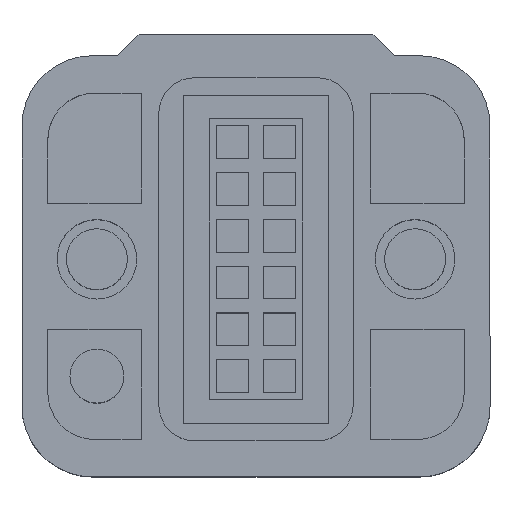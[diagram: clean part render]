
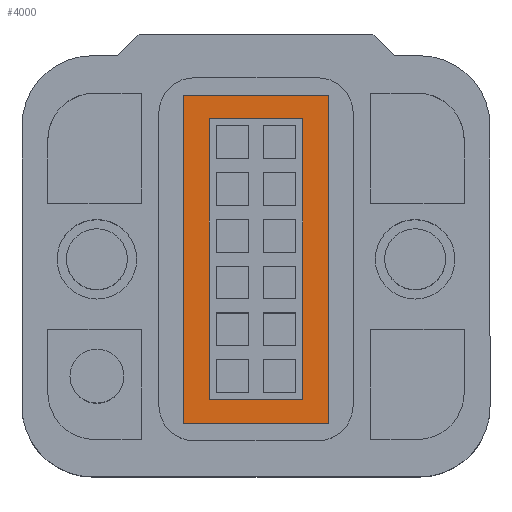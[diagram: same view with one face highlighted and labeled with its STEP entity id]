
A CAD part, top view. The second image highlights one B-rep face of the part: STEP entity #4000.
In plain terms, the highlighted planar face has unit normal (0, 0, 1).
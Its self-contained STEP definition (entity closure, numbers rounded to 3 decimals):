
#51 = EDGE_CURVE ( 'NONE', #5756, #4946, #4222, .T. ) ;
#217 = DIRECTION ( 'NONE',  ( 1., 0., 0. ) ) ;
#304 = FACE_OUTER_BOUND ( 'NONE', #1864, .T. ) ;
#384 = EDGE_LOOP ( 'NONE', ( #592, #5580, #4770, #3120 ) ) ;
#460 = DIRECTION ( 'NONE',  ( -1., 0., 0. ) ) ;
#480 = CARTESIAN_POINT ( 'NONE',  ( 3.1, -4.4, 1.6 ) ) ;
#499 = EDGE_CURVE ( 'NONE', #4535, #4094, #4862, .T. ) ;
#519 = CARTESIAN_POINT ( 'NONE',  ( -3.1, 9.6, 1.6 ) ) ;
#585 = ORIENTED_EDGE ( 'NONE', *, *, #51, .T. ) ;
#592 = ORIENTED_EDGE ( 'NONE', *, *, #4091, .F. ) ;
#621 = VERTEX_POINT ( 'NONE', #1687 ) ;
#780 = VECTOR ( 'NONE', #4521, 1000. ) ;
#785 = CARTESIAN_POINT ( 'NONE',  ( -2., -3.4, 1.6 ) ) ;
#830 = VERTEX_POINT ( 'NONE', #2378 ) ;
#845 = DIRECTION ( 'NONE',  ( 1., 0., 0. ) ) ;
#942 = CARTESIAN_POINT ( 'NONE',  ( -2., 8.6, 1.6 ) ) ;
#1144 = VECTOR ( 'NONE', #4161, 1000. ) ;
#1325 = DIRECTION ( 'NONE',  ( 1., 0., 0. ) ) ;
#1365 = CARTESIAN_POINT ( 'NONE',  ( 2., -3.4, 1.6 ) ) ;
#1575 = VERTEX_POINT ( 'NONE', #1365 ) ;
#1687 = CARTESIAN_POINT ( 'NONE',  ( 2., 8.6, 1.6 ) ) ;
#1855 = VECTOR ( 'NONE', #2794, 1000. ) ;
#1864 = EDGE_LOOP ( 'NONE', ( #585, #3190, #3935, #4454 ) ) ;
#2219 = AXIS2_PLACEMENT_3D ( 'NONE', #5356, #2251, #1325 ) ;
#2251 = DIRECTION ( 'NONE',  ( 0., 0., 1. ) ) ;
#2378 = CARTESIAN_POINT ( 'NONE',  ( -2., -3.4, 1.6 ) ) ;
#2725 = CARTESIAN_POINT ( 'NONE',  ( -3.1, 9.6, 1.6 ) ) ;
#2794 = DIRECTION ( 'NONE',  ( 0., 1., 0. ) ) ;
#2810 = EDGE_CURVE ( 'NONE', #830, #1575, #3500, .T. ) ;
#2818 = VECTOR ( 'NONE', #2972, 1000. ) ;
#2937 = LINE ( 'NONE', #5239, #5916 ) ;
#2956 = EDGE_CURVE ( 'NONE', #4094, #5756, #5057, .T. ) ;
#2972 = DIRECTION ( 'NONE',  ( 0., 1., 0. ) ) ;
#3093 = VECTOR ( 'NONE', #845, 1000. ) ;
#3120 = ORIENTED_EDGE ( 'NONE', *, *, #2810, .F. ) ;
#3190 = ORIENTED_EDGE ( 'NONE', *, *, #5578, .T. ) ;
#3215 = CARTESIAN_POINT ( 'NONE',  ( -3.1, 9.6, 1.6 ) ) ;
#3500 = LINE ( 'NONE', #785, #3093 ) ;
#3667 = VECTOR ( 'NONE', #460, 1000. ) ;
#3715 = CARTESIAN_POINT ( 'NONE',  ( 2., 8.6, 1.6 ) ) ;
#3748 = LINE ( 'NONE', #3715, #1855 ) ;
#3935 = ORIENTED_EDGE ( 'NONE', *, *, #499, .T. ) ;
#3945 = PLANE ( 'NONE',  #2219 ) ;
#4000 = ADVANCED_FACE ( 'NONE', ( #4751, #304 ), #3945, .T. ) ;
#4041 = CARTESIAN_POINT ( 'NONE',  ( 3.1, 9.6, 1.6 ) ) ;
#4091 = EDGE_CURVE ( 'NONE', #5317, #830, #5833, .T. ) ;
#4094 = VERTEX_POINT ( 'NONE', #4041 ) ;
#4161 = DIRECTION ( 'NONE',  ( 0., -1., 0. ) ) ;
#4173 = CARTESIAN_POINT ( 'NONE',  ( -3.1, -4.4, 1.6 ) ) ;
#4222 = LINE ( 'NONE', #519, #1144 ) ;
#4260 = LINE ( 'NONE', #5188, #5387 ) ;
#4454 = ORIENTED_EDGE ( 'NONE', *, *, #2956, .T. ) ;
#4491 = CARTESIAN_POINT ( 'NONE',  ( -2., 8.6, 1.6 ) ) ;
#4521 = DIRECTION ( 'NONE',  ( 0., -1., 0. ) ) ;
#4535 = VERTEX_POINT ( 'NONE', #480 ) ;
#4751 = FACE_BOUND ( 'NONE', #384, .T. ) ;
#4770 = ORIENTED_EDGE ( 'NONE', *, *, #5835, .F. ) ;
#4791 = DIRECTION ( 'NONE',  ( -1., 0., 0. ) ) ;
#4862 = LINE ( 'NONE', #5755, #2818 ) ;
#4946 = VERTEX_POINT ( 'NONE', #4173 ) ;
#5057 = LINE ( 'NONE', #2725, #3667 ) ;
#5127 = EDGE_CURVE ( 'NONE', #621, #5317, #2937, .T. ) ;
#5188 = CARTESIAN_POINT ( 'NONE',  ( -3.1, -4.4, 1.6 ) ) ;
#5239 = CARTESIAN_POINT ( 'NONE',  ( -2., 8.6, 1.6 ) ) ;
#5317 = VERTEX_POINT ( 'NONE', #942 ) ;
#5356 = CARTESIAN_POINT ( 'NONE',  ( 0., 0., 1.6 ) ) ;
#5387 = VECTOR ( 'NONE', #217, 1000. ) ;
#5578 = EDGE_CURVE ( 'NONE', #4946, #4535, #4260, .T. ) ;
#5580 = ORIENTED_EDGE ( 'NONE', *, *, #5127, .F. ) ;
#5755 = CARTESIAN_POINT ( 'NONE',  ( 3.1, 9.6, 1.6 ) ) ;
#5756 = VERTEX_POINT ( 'NONE', #3215 ) ;
#5833 = LINE ( 'NONE', #4491, #780 ) ;
#5835 = EDGE_CURVE ( 'NONE', #1575, #621, #3748, .T. ) ;
#5916 = VECTOR ( 'NONE', #4791, 1000. ) ;
